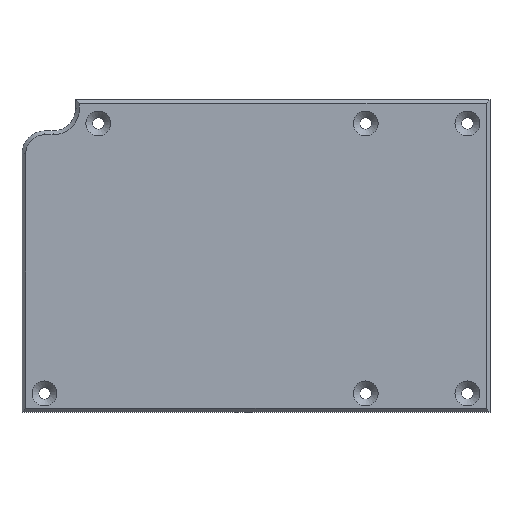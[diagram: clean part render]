
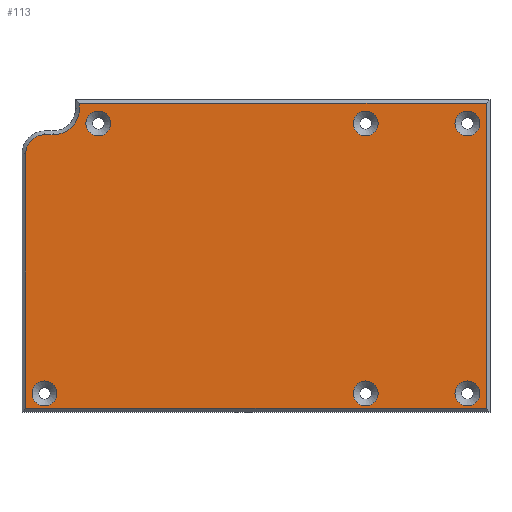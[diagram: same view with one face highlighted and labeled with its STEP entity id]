
A CAD part, top view. The second image highlights one B-rep face of the part: STEP entity #113.
In plain terms, the highlighted planar face has unit normal (0, 0, 1).
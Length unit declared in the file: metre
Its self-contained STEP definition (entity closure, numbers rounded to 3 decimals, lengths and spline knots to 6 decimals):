
#113 = ADVANCED_FACE( '', ( #244, #245, #246, #247, #248, #249, #250 ), #251, .T. );
#244 = FACE_OUTER_BOUND( '', #381, .T. );
#245 = FACE_BOUND( '', #382, .T. );
#246 = FACE_BOUND( '', #383, .T. );
#247 = FACE_BOUND( '', #384, .T. );
#248 = FACE_BOUND( '', #385, .T. );
#249 = FACE_BOUND( '', #386, .T. );
#250 = FACE_BOUND( '', #387, .T. );
#251 = PLANE( '', #388 );
#381 = EDGE_LOOP( '', ( #624, #625, #626, #627, #628, #629, #630, #631 ) );
#382 = EDGE_LOOP( '', ( #632 ) );
#383 = EDGE_LOOP( '', ( #633 ) );
#384 = EDGE_LOOP( '', ( #634 ) );
#385 = EDGE_LOOP( '', ( #635 ) );
#386 = EDGE_LOOP( '', ( #636 ) );
#387 = EDGE_LOOP( '', ( #637 ) );
#388 = AXIS2_PLACEMENT_3D( '', #638, #639, #640 );
#624 = ORIENTED_EDGE( '', *, *, #724, .T. );
#625 = ORIENTED_EDGE( '', *, *, #782, .T. );
#626 = ORIENTED_EDGE( '', *, *, #785, .T. );
#627 = ORIENTED_EDGE( '', *, *, #786, .T. );
#628 = ORIENTED_EDGE( '', *, *, #752, .T. );
#629 = ORIENTED_EDGE( '', *, *, #755, .T. );
#630 = ORIENTED_EDGE( '', *, *, #731, .T. );
#631 = ORIENTED_EDGE( '', *, *, #757, .T. );
#632 = ORIENTED_EDGE( '', *, *, #747, .T. );
#633 = ORIENTED_EDGE( '', *, *, #787, .T. );
#634 = ORIENTED_EDGE( '', *, *, #788, .T. );
#635 = ORIENTED_EDGE( '', *, *, #733, .T. );
#636 = ORIENTED_EDGE( '', *, *, #766, .T. );
#637 = ORIENTED_EDGE( '', *, *, #694, .T. );
#638 = CARTESIAN_POINT( '', ( 0.003756, 0.008632, 0.416 ) );
#639 = DIRECTION( '', ( 0., 0., 1. ) );
#640 = DIRECTION( '', ( 1., 0., 0. ) );
#694 = EDGE_CURVE( '', #799, #799, #800, .F. );
#724 = EDGE_CURVE( '', #848, #846, #849, .T. );
#731 = EDGE_CURVE( '', #854, #859, #861, .T. );
#733 = EDGE_CURVE( '', #863, #863, #864, .F. );
#747 = EDGE_CURVE( '', #888, #888, #889, .F. );
#752 = EDGE_CURVE( '', #891, #896, #898, .F. );
#755 = EDGE_CURVE( '', #896, #854, #901, .T. );
#757 = EDGE_CURVE( '', #859, #848, #903, .T. );
#766 = EDGE_CURVE( '', #915, #915, #916, .F. );
#782 = EDGE_CURVE( '', #846, #932, #934, .T. );
#785 = EDGE_CURVE( '', #932, #937, #938, .T. );
#786 = EDGE_CURVE( '', #937, #891, #939, .T. );
#787 = EDGE_CURVE( '', #940, #940, #941, .F. );
#788 = EDGE_CURVE( '', #942, #942, #943, .F. );
#799 = VERTEX_POINT( '', #954 );
#800 = CIRCLE( '', #955, 0.0033 );
#846 = VERTEX_POINT( '', #1012 );
#848 = VERTEX_POINT( '', #1015 );
#849 = LINE( '', #1016, #1017 );
#854 = VERTEX_POINT( '', #1024 );
#859 = VERTEX_POINT( '', #1030 );
#861 = CIRCLE( '', #1033, 0.005 );
#863 = VERTEX_POINT( '', #1035 );
#864 = CIRCLE( '', #1036, 0.0033 );
#888 = VERTEX_POINT( '', #1067 );
#889 = CIRCLE( '', #1068, 0.0033 );
#891 = VERTEX_POINT( '', #1070 );
#896 = VERTEX_POINT( '', #1076 );
#898 = CIRCLE( '', #1079, 0.007 );
#901 = LINE( '', #1083, #1084 );
#903 = LINE( '', #1086, #1087 );
#915 = VERTEX_POINT( '', #1103 );
#916 = CIRCLE( '', #1104, 0.0033 );
#932 = VERTEX_POINT( '', #1127 );
#934 = LINE( '', #1130, #1131 );
#937 = VERTEX_POINT( '', #1134 );
#938 = LINE( '', #1135, #1136 );
#939 = LINE( '', #1137, #1138 );
#940 = VERTEX_POINT( '', #1139 );
#941 = CIRCLE( '', #1140, 0.0033 );
#942 = VERTEX_POINT( '', #1141 );
#943 = CIRCLE( '', #1142, 0.0033 );
#954 = CARTESIAN_POINT( '', ( -0.038119, -0.027833, 0.416 ) );
#955 = AXIS2_PLACEMENT_3D( '', #1154, #1155, #1156 );
#1012 = CARTESIAN_POINT( '', ( 0.064881, -0.100208, 0.416 ) );
#1015 = CARTESIAN_POINT( '', ( -0.057369, -0.100208, 0.416 ) );
#1016 = CARTESIAN_POINT( '', ( 0.003756, -0.100208, 0.416 ) );
#1017 = VECTOR( '', #1193, 1. );
#1024 = CARTESIAN_POINT( '', ( -0.052369, -0.027528, 0.416 ) );
#1030 = CARTESIAN_POINT( '', ( -0.057369, -0.032528, 0.416 ) );
#1033 = AXIS2_PLACEMENT_3D( '', #1201, #1202, #1203 );
#1035 = CARTESIAN_POINT( '', ( 0.059881, -0.027833, 0.416 ) );
#1036 = AXIS2_PLACEMENT_3D( '', #1204, #1205, #1206 );
#1067 = CARTESIAN_POINT( '', ( 0.032881, -0.099508, 0.416 ) );
#1068 = AXIS2_PLACEMENT_3D( '', #1226, #1227, #1228 );
#1070 = CARTESIAN_POINT( '', ( -0.043119, -0.020528, 0.416 ) );
#1076 = CARTESIAN_POINT( '', ( -0.050119, -0.027528, 0.416 ) );
#1079 = AXIS2_PLACEMENT_3D( '', #1234, #1235, #1236 );
#1083 = CARTESIAN_POINT( '', ( 0.003756, -0.027528, 0.416 ) );
#1084 = VECTOR( '', #1238, 1. );
#1086 = CARTESIAN_POINT( '', ( -0.057369, 0.008632, 0.416 ) );
#1087 = VECTOR( '', #1239, 1. );
#1103 = CARTESIAN_POINT( '', ( 0.032881, -0.027833, 0.416 ) );
#1104 = AXIS2_PLACEMENT_3D( '', #1247, #1248, #1249 );
#1127 = CARTESIAN_POINT( '', ( 0.064881, -0.019208, 0.416 ) );
#1130 = CARTESIAN_POINT( '', ( 0.064881, -0.018208, 0.416 ) );
#1131 = VECTOR( '', #1261, 1. );
#1134 = CARTESIAN_POINT( '', ( -0.043119, -0.019208, 0.416 ) );
#1135 = CARTESIAN_POINT( '', ( 0.003756, -0.019208, 0.416 ) );
#1136 = VECTOR( '', #1262, 1. );
#1137 = CARTESIAN_POINT( '', ( -0.043119, 0.008632, 0.416 ) );
#1138 = VECTOR( '', #1263, 1. );
#1139 = CARTESIAN_POINT( '', ( -0.052395, -0.099508, 0.416 ) );
#1140 = AXIS2_PLACEMENT_3D( '', #1264, #1265, #1266 );
#1141 = CARTESIAN_POINT( '', ( 0.059881, -0.099508, 0.416 ) );
#1142 = AXIS2_PLACEMENT_3D( '', #1267, #1268, #1269 );
#1154 = CARTESIAN_POINT( '', ( -0.038119, -0.024533, 0.416 ) );
#1155 = DIRECTION( '', ( 0., 0., 1. ) );
#1156 = DIRECTION( '', ( 0., -1., 0. ) );
#1193 = DIRECTION( '', ( 1., 0., 0. ) );
#1201 = CARTESIAN_POINT( '', ( -0.052369, -0.032528, 0.416 ) );
#1202 = DIRECTION( '', ( 0., 0., 1. ) );
#1203 = DIRECTION( '', ( 0., -1., 0. ) );
#1204 = CARTESIAN_POINT( '', ( 0.059881, -0.024533, 0.416 ) );
#1205 = DIRECTION( '', ( 0., 0., 1. ) );
#1206 = DIRECTION( '', ( 0., -1., 0. ) );
#1226 = CARTESIAN_POINT( '', ( 0.032881, -0.096208, 0.416 ) );
#1227 = DIRECTION( '', ( 0., 0., 1. ) );
#1228 = DIRECTION( '', ( 0., -1., 0. ) );
#1234 = CARTESIAN_POINT( '', ( -0.050119, -0.020528, 0.416 ) );
#1235 = DIRECTION( '', ( 0., 0., 1. ) );
#1236 = DIRECTION( '', ( 0., -1., 0. ) );
#1238 = DIRECTION( '', ( -1., 0., 0. ) );
#1239 = DIRECTION( '', ( 0., -1., 0. ) );
#1247 = CARTESIAN_POINT( '', ( 0.032881, -0.024533, 0.416 ) );
#1248 = DIRECTION( '', ( 0., 0., 1. ) );
#1249 = DIRECTION( '', ( 0., -1., 0. ) );
#1261 = DIRECTION( '', ( 0., 1., 0. ) );
#1262 = DIRECTION( '', ( -1., 0., 0. ) );
#1263 = DIRECTION( '', ( 0., -1., 0. ) );
#1264 = CARTESIAN_POINT( '', ( -0.052395, -0.096208, 0.416 ) );
#1265 = DIRECTION( '', ( 0., 0., 1. ) );
#1266 = DIRECTION( '', ( 0., -1., 0. ) );
#1267 = CARTESIAN_POINT( '', ( 0.059881, -0.096208, 0.416 ) );
#1268 = DIRECTION( '', ( 0., 0., 1. ) );
#1269 = DIRECTION( '', ( 0., -1., 0. ) );
